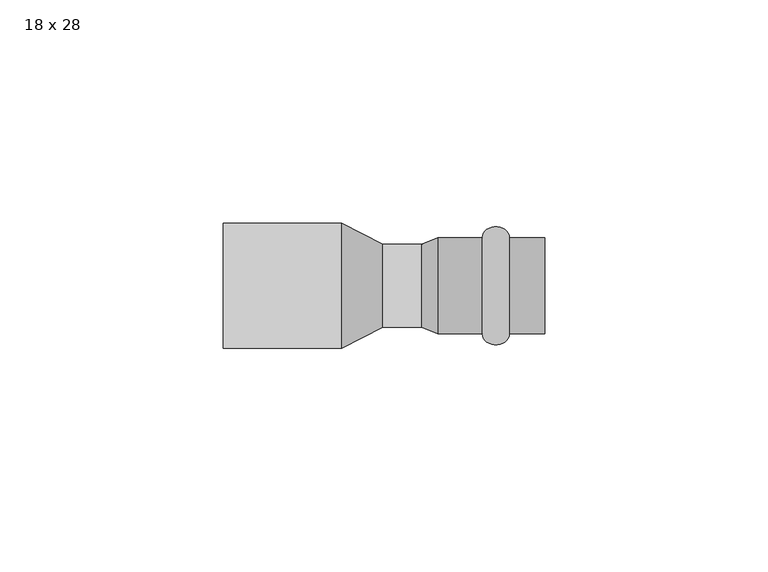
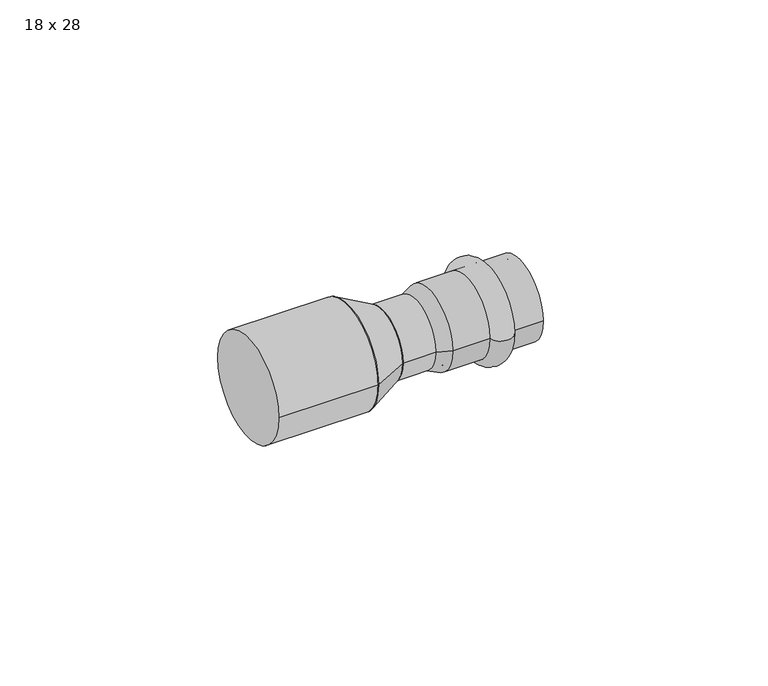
"""IFC4 building model written with IfcOpenShell, lengths in millimetres: pipe fitting geometry, РЕХАУ_Пресс Вставка переходная : 18 x 28."""

from ifc_helpers import new_model, si_unit, point, frame, origin, origin_2d, place, context, project, spatial, polyline, circle_curve, ellipse_curve, trimmed, segment, composite_curve, outline, extrude, source, transform, mapped, element, save
from ifc_brep_helpers import plane_surface, cylinder_surface, revolved_surface, advanced_brep


def pipe_fitting_18_x_28_b057a370(model_context):
    return source(origin(), model_context, "Body", "SolidModel", [
        advanced_brep(
        [(64.1, 10.75, 0.0), (64.1, -10.75, 0.0), (58.0, -10.75, 0.0), (58.0, 10.75, 0.0)],
        [
            (0, 1, circle_curve(frame((64.1, 0.0, 0.0), z_axis=(1.0, 0.0, 0.0), x_axis=(0.0, -1.0, 0.0)), 10.75)),
            (1, 2),
            (2, 3, circle_curve(frame((58.0, 0.0, 0.0), z_axis=(-1.0, 0.0, 0.0), x_axis=(0.0, -1.0, 0.0)), 10.75)),
            (3, 0),
            (1, 0, circle_curve(frame((64.1, 0.0, 0.0), z_axis=(1.0, 0.0, 0.0), x_axis=(0.0, -1.0, 0.0)), 10.75)),
            (3, 2, circle_curve(frame((58.0, 0.0, 0.0), z_axis=(-1.0, 0.0, 0.0), x_axis=(0.0, -1.0, 0.0)), 10.75)),
            (2, 1, ellipse_curve(frame((61.05, -10.75, 0.0), z_axis=(0.0, 0.0, 1.0), x_axis=(1.0, 0.0, 0.0)), 3.05, 2.5)),
            (0, 3, ellipse_curve(frame((61.05, 10.75, 0.0), z_axis=(0.0, 0.0, 1.0), x_axis=(1.0, 0.0, 0.0)), 3.05, 2.5)),
        ],
        [
            revolved_surface(polyline([(58.0, -10.75, 0.0), (64.1, -10.75, 0.0)]), (45.0, 0.0, 0.0), (-1.0, 0.0, 0.0)),
            revolved_surface(trimmed(ellipse_curve(frame((61.05, -10.75, 0.0), z_axis=(0.0, 0.0, -1.0), x_axis=(1.0, 0.0, 0.0)), 3.05, 2.5), [point((64.1, -10.75, 0.0))], [point((58.0, -10.75, 0.0))], True, "CARTESIAN"), (45.0, 0.0, 0.0), (-1.0, 0.0, 0.0)),
        ],
        [
            (0, [[1, 2, 3, 4]]),
            (0, [[5, -4, 6, -2]]),
            (1, [[-3, 7, -1, 8]]),
            (1, [[-6, -8, -5, -7]]),
        ],
    ),
        advanced_brep(
        [(44.4662215, 9.25, 0.0), (44.4662215, -9.25, 0.0), (48.0, -10.75, 0.0), (48.0, 10.75, 0.0), (72.0, 9.25, 0.0), (72.0, -9.25, 0.0), (72.0, 10.75, 0.0), (72.0, -10.75, 0.0)],
        [
            (0, 1, circle_curve(frame((44.4662215, 0.0, 0.0), z_axis=(1.0, 0.0, 0.0), x_axis=(0.0, -1.0, 0.0)), 9.25)),
            (1, 2),
            (2, 3, circle_curve(frame((48.0, 0.0, 0.0), z_axis=(-1.0, 0.0, 0.0), x_axis=(0.0, -1.0, 0.0)), 10.75)),
            (3, 0),
            (1, 0, circle_curve(frame((44.4662215, 0.0, 0.0), z_axis=(1.0, 0.0, 0.0), x_axis=(0.0, -1.0, 0.0)), 9.25)),
            (3, 2, circle_curve(frame((48.0, 0.0, 0.0), z_axis=(-1.0, 0.0, 0.0), x_axis=(0.0, -1.0, 0.0)), 10.75)),
            (4, 5, circle_curve(frame((72.0, 0.0, 0.0), z_axis=(1.0, 0.0, 0.0), x_axis=(0.0, -1.0, 0.0)), 9.25)),
            (5, 1),
            (0, 4),
            (5, 4, circle_curve(frame((72.0, 0.0, 0.0), z_axis=(1.0, 0.0, 0.0), x_axis=(0.0, -1.0, 0.0)), 9.25)),
            (6, 7, circle_curve(frame((72.0, 0.0, 0.0), z_axis=(1.0, 0.0, 0.0), x_axis=(0.0, -1.0, 0.0)), 10.75)),
            (7, 5),
            (4, 6),
            (7, 6, circle_curve(frame((72.0, 0.0, 0.0), z_axis=(1.0, 0.0, 0.0), x_axis=(0.0, -1.0, 0.0)), 10.75)),
            (2, 7),
            (6, 3),
        ],
        [
            revolved_surface(polyline([(48.0, -10.75, 0.0), (44.4662215, -9.25, 0.0)]), (45.0, 0.0, 0.0), (-1.0, 0.0, 0.0)),
            revolved_surface(polyline([(44.4662215, -9.25, 0.0), (72.0, -9.25, 0.0)]), (45.0, 0.0, 0.0), (-1.0, 0.0, 0.0)),
            plane_surface(frame((72.0, 0.0, 0.0), z_axis=(1.0, 0.0, 0.0), x_axis=(0.0, -1.0, 0.0))),
            cylinder_surface(frame((45.0, 0.0, 0.0), z_axis=(-1.0, 0.0, 0.0), x_axis=(0.0, -1.0, 0.0)), 10.75),
        ],
        [
            (0, [[1, 2, 3, 4]]),
            (0, [[5, -4, 6, -2]]),
            (1, [[7, 8, -1, 9]]),
            (1, [[10, -9, -5, -8]]),
            (2, [[11, 12, -7, 13]]),
            (2, [[14, -13, -10, -12]]),
            (3, [[-3, 15, -11, 16]]),
            (3, [[-6, -16, -14, -15]]),
        ],
    ),
        extrude(outline(composite_curve([segment(trimmed(circle_curve(origin_2d(), 9.25), [point((-9.25, 0.0))], [point((9.25, 0.0))], False, "CARTESIAN"), True, "CONTINUOUS"), segment(trimmed(circle_curve(origin_2d(), 9.25), [point((9.25, 0.0))], [point((-9.25, 0.0))], False, "CARTESIAN"), True, "CONTINUOUS")], self_intersect=False)), frame((35.7, 0.0, 0.0), z_axis=(1.0, 0.0, 0.0), x_axis=(0.0, 1.0, 0.0)), (0.0, 0.0, 1.0), 12.3),
        advanced_brep(
        [(35.7, -9.25, 0.0), (35.7, 9.25, 0.0), (26.5, -14.0, 0.0), (26.5, 14.0, 0.0)],
        [
            (0, 1, circle_curve(frame((35.7, 0.0, 0.0), z_axis=(1.0, 0.0, 0.0), x_axis=(0.0, -1.0, 0.0)), 9.25)),
            (1, 0, circle_curve(frame((35.7, 0.0, 0.0), z_axis=(1.0, 0.0, 0.0), x_axis=(0.0, 1.0, 0.0)), 9.25)),
            (2, 3, circle_curve(frame((26.5, 0.0, 0.0), z_axis=(-1.0, 0.0, 0.0), x_axis=(0.0, 1.0, 0.0)), 14.0)),
            (3, 2, circle_curve(frame((26.5, 0.0, 0.0), z_axis=(-1.0, 0.0, 0.0), x_axis=(0.0, -1.0, 0.0)), 14.0)),
            (3, 1),
            (0, 2),
        ],
        [
            plane_surface(frame((35.7, 0.0, 0.0), z_axis=(1.0, 0.0, 0.0), x_axis=(0.0, 0.0, -1.0))),
            plane_surface(frame((26.5, 0.0, 0.0), z_axis=(-1.0, 0.0, 0.0), x_axis=(0.0, 0.0, -1.0))),
            revolved_surface(polyline([(35.7, -9.25000000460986, 0.0), (26.5, -14.0, 0.0)]), (53.6157895, 0.0, 0.0), (-1.0, 0.0, 0.0)),
            revolved_surface(polyline([(35.7, 9.25000000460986, 0.0), (26.5, 14.0, 0.0)]), (53.6157895, 0.0, 0.0), (-1.0, 0.0, 0.0)),
        ],
        [
            (0, [[1, 2]]),
            (1, [[3, 4]]),
            (2, [[-4, 5, -1, 6]]),
            (3, [[-3, -6, -2, -5]]),
        ],
    ),
        extrude(outline(composite_curve([segment(trimmed(circle_curve(origin_2d(), 14.0), [point((-14.0, 0.0))], [point((14.0, 0.0))], False, "CARTESIAN"), True, "CONTINUOUS"), segment(trimmed(circle_curve(origin_2d(), 14.0), [point((14.0, 0.0))], [point((-14.0, 0.0))], False, "CARTESIAN"), True, "CONTINUOUS")], self_intersect=False)), frame((0.0, 0.0, 0.0), z_axis=(1.0, 0.0, 0.0), x_axis=(0.0, 1.0, 0.0)), (0.0, 0.0, 1.0), 26.5),
    ])


if __name__ == "__main__":
    model = new_model("IFC4")
    model_context = context("Model", 3, world=origin())
    ifc_project = project(units=[si_unit("LENGTHUNIT", "METRE", prefix="MILLI")], contexts=[model_context])
    site = spatial("IfcSite", under=ifc_project)
    building = spatial("IfcBuilding", under=site)
    placement = place(None, origin())
    pipe_fitting_18_x_28_shape = pipe_fitting_18_x_28_b057a370(model_context)
    element("IfcPipeFitting", 1, ObjectType="РЕХАУ_Пресс Вставка переходная : 18 x 28", at=placement, inside=building, context=model_context, shape_type="MappedRepresentation", body=[
        mapped(pipe_fitting_18_x_28_shape, transform((0.0, 0.0, 0.0), x_axis=(1.0, 0.0, 0.0), y_axis=(0.0, 1.0, 0.0), z_axis=(0.0, 0.0, 1.0))),
    ])
    save(model, "model.ifc")
